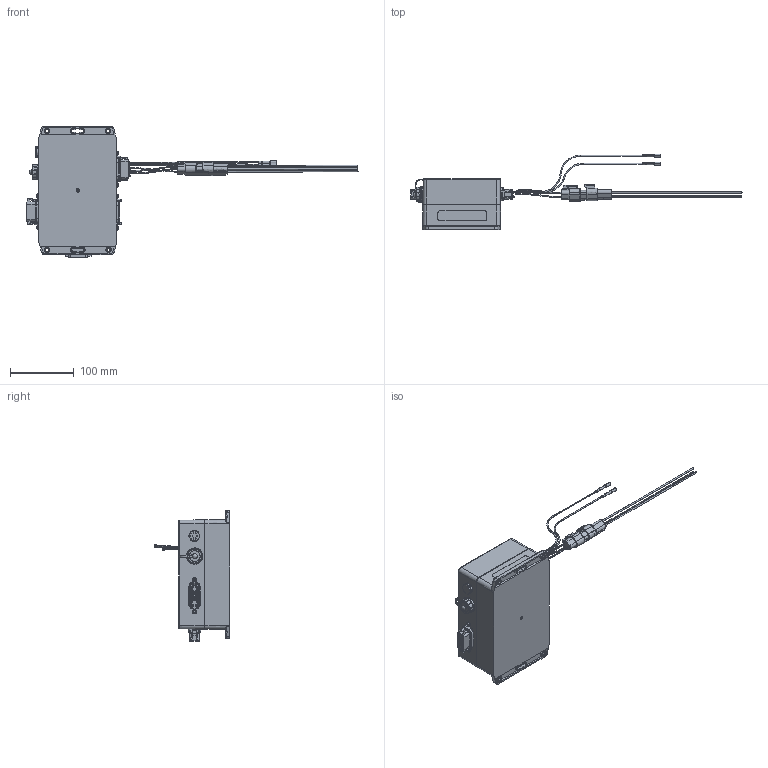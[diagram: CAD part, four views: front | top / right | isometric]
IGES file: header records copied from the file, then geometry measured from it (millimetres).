
Start section: SolidWorks IGES file using analytic representation for surfaces
Global section: file name: C:\plot\models\7038\7073_Int_Module.IGS; native system: SolidWorks 2015; preprocessor: SolidWorks 2015; author: tmott; date: 150901.152852; units: inch
Bounding box: 518.89 x 118.21 x 206.04 mm (x, y, z)
Surface area: 132209.5 mm2 (no closed solid volume)
Topology: 0 solids, 0 shells, 3098 faces, 29480 edges, 29373 vertices
Faces by surface type: bspline 2198, revolution 900
